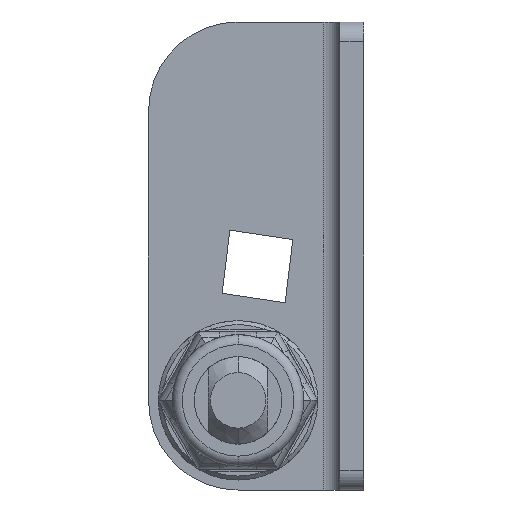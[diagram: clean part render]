
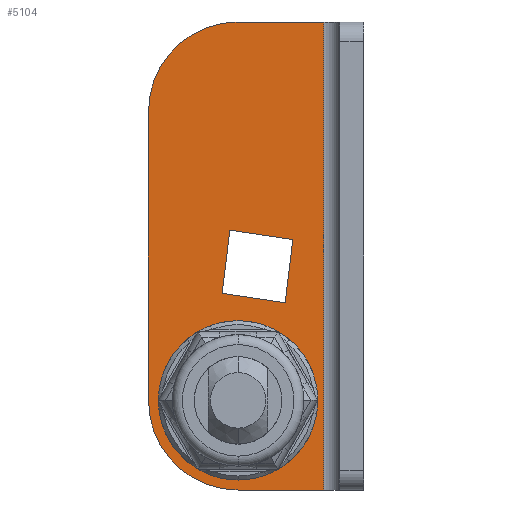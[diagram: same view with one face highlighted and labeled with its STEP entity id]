
A CAD part, left-side view. The second image highlights one B-rep face of the part: STEP entity #5104.
In plain terms, the highlighted planar face has unit normal (-1, 0, 0).
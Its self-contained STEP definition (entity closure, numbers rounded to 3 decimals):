
#24 = EDGE_CURVE ( 'NONE', #5192, #197, #4614, .T. ) ;
#69 = CARTESIAN_POINT ( 'NONE',  ( -1.2, 6.3, 23.5 ) ) ;
#80 = VERTEX_POINT ( 'NONE', #2283 ) ;
#172 = LINE ( 'NONE', #1657, #1533 ) ;
#197 = VERTEX_POINT ( 'NONE', #69 ) ;
#343 = EDGE_CURVE ( 'NONE', #981, #661, #2794, .T. ) ;
#366 = DIRECTION ( 'NONE',  ( 0., 1., 0. ) ) ;
#445 = CARTESIAN_POINT ( 'NONE',  ( -1.2, 6.3, 8.5 ) ) ;
#521 = CARTESIAN_POINT ( 'NONE',  ( -1.2, 6.3, 19. ) ) ;
#600 = LINE ( 'NONE', #5724, #2682 ) ;
#607 = VECTOR ( 'NONE', #977, 1000. ) ;
#648 = DIRECTION ( 'NONE',  ( -1., 0., 0. ) ) ;
#651 = DIRECTION ( 'NONE',  ( -1., 0., 0. ) ) ;
#661 = VERTEX_POINT ( 'NONE', #5493 ) ;
#671 = CIRCLE ( 'NONE', #1459, 4. ) ;
#672 = ORIENTED_EDGE ( 'NONE', *, *, #4709, .F. ) ;
#679 = DIRECTION ( 'NONE',  ( 0., 0., -1. ) ) ;
#698 = DIRECTION ( 'NONE',  ( 0., 1., 0. ) ) ;
#767 = ORIENTED_EDGE ( 'NONE', *, *, #24, .T. ) ;
#782 = LINE ( 'NONE', #1170, #5254 ) ;
#798 = CARTESIAN_POINT ( 'NONE',  ( -1.2, 0., 23.5 ) ) ;
#834 = EDGE_CURVE ( 'NONE', #4586, #5502, #3678, .T. ) ;
#968 = VERTEX_POINT ( 'NONE', #2514 ) ;
#977 = DIRECTION ( 'NONE',  ( 0., 0., -1. ) ) ;
#981 = VERTEX_POINT ( 'NONE', #3478 ) ;
#1000 = DIRECTION ( 'NONE',  ( -1., 0., 0. ) ) ;
#1014 = ORIENTED_EDGE ( 'NONE', *, *, #343, .T. ) ;
#1062 = CARTESIAN_POINT ( 'NONE',  ( -1.2, 6.715, 13.051 ) ) ;
#1112 = EDGE_CURVE ( 'NONE', #661, #968, #782, .T. ) ;
#1117 = CARTESIAN_POINT ( 'NONE',  ( -1.2, 2., 23.5 ) ) ;
#1170 = CARTESIAN_POINT ( 'NONE',  ( -1.2, 7.1, 9.874 ) ) ;
#1226 = CARTESIAN_POINT ( 'NONE',  ( -1.2, 6.3, 4.5 ) ) ;
#1330 = VECTOR ( 'NONE', #679, 1000. ) ;
#1369 = EDGE_LOOP ( 'NONE', ( #1759, #1014, #3814, #5221 ) ) ;
#1459 = AXIS2_PLACEMENT_3D ( 'NONE', #3920, #5226, #2492 ) ;
#1533 = VECTOR ( 'NONE', #698, 1000. ) ;
#1552 = LINE ( 'NONE', #1676, #2841 ) ;
#1587 = CARTESIAN_POINT ( 'NONE',  ( -1.2, 0., 23.5 ) ) ;
#1657 = CARTESIAN_POINT ( 'NONE',  ( -1.2, 0., 0. ) ) ;
#1676 = CARTESIAN_POINT ( 'NONE',  ( -1.2, 7.1, 9.874 ) ) ;
#1759 = ORIENTED_EDGE ( 'NONE', *, *, #5162, .T. ) ;
#1848 = EDGE_CURVE ( 'NONE', #968, #5922, #1552, .T. ) ;
#1876 = CARTESIAN_POINT ( 'NONE',  ( -1.2, 10.8, 23.5 ) ) ;
#1898 = FACE_BOUND ( 'NONE', #1369, .T. ) ;
#2068 = EDGE_LOOP ( 'NONE', ( #4543, #4870 ) ) ;
#2079 = EDGE_LOOP ( 'NONE', ( #767, #5481, #5234, #4976, #672, #3272 ) ) ;
#2143 = VERTEX_POINT ( 'NONE', #5222 ) ;
#2212 = VECTOR ( 'NONE', #366, 1000. ) ;
#2270 = LINE ( 'NONE', #1117, #1330 ) ;
#2283 = CARTESIAN_POINT ( 'NONE',  ( -1.2, 10.8, 4.5 ) ) ;
#2330 = FACE_OUTER_BOUND ( 'NONE', #2079, .T. ) ;
#2391 = DIRECTION ( 'NONE',  ( 0., 0., 1. ) ) ;
#2462 = FACE_BOUND ( 'NONE', #2068, .T. ) ;
#2492 = DIRECTION ( 'NONE',  ( 0., 0., 1. ) ) ;
#2497 = CARTESIAN_POINT ( 'NONE',  ( -1.2, 2., 0. ) ) ;
#2514 = CARTESIAN_POINT ( 'NONE',  ( -1.2, 7.1, 9.874 ) ) ;
#2516 = DIRECTION ( 'NONE',  ( 0., 0.989, 0.148 ) ) ;
#2529 = EDGE_CURVE ( 'NONE', #5192, #4366, #2270, .T. ) ;
#2656 = VERTEX_POINT ( 'NONE', #3068 ) ;
#2682 = VECTOR ( 'NONE', #3464, 1000. ) ;
#2747 = CARTESIAN_POINT ( 'NONE',  ( -1.2, 6.3, 0.5 ) ) ;
#2794 = LINE ( 'NONE', #3363, #5770 ) ;
#2841 = VECTOR ( 'NONE', #4421, 1000. ) ;
#2868 = DIRECTION ( 'NONE',  ( 0., 0.12, -0.993 ) ) ;
#3068 = CARTESIAN_POINT ( 'NONE',  ( -1.2, 6.3, 0. ) ) ;
#3272 = ORIENTED_EDGE ( 'NONE', *, *, #2529, .F. ) ;
#3363 = CARTESIAN_POINT ( 'NONE',  ( -1.2, 3.935, 9.4 ) ) ;
#3423 = CARTESIAN_POINT ( 'NONE',  ( -1.2, 2., 23.5 ) ) ;
#3464 = DIRECTION ( 'NONE',  ( 0., -0.989, -0.148 ) ) ;
#3465 = AXIS2_PLACEMENT_3D ( 'NONE', #1226, #3495, #4908 ) ;
#3478 = CARTESIAN_POINT ( 'NONE',  ( -1.2, 3.55, 12.577 ) ) ;
#3495 = DIRECTION ( 'NONE',  ( -1., 0., 0. ) ) ;
#3678 = CIRCLE ( 'NONE', #4615, 4. ) ;
#3814 = ORIENTED_EDGE ( 'NONE', *, *, #1112, .T. ) ;
#3877 = PLANE ( 'NONE',  #5712 ) ;
#3902 = DIRECTION ( 'NONE',  ( 0., 0., 1. ) ) ;
#3920 = CARTESIAN_POINT ( 'NONE',  ( -1.2, 6.3, 4.5 ) ) ;
#4097 = EDGE_CURVE ( 'NONE', #2143, #80, #4377, .T. ) ;
#4366 = VERTEX_POINT ( 'NONE', #2497 ) ;
#4377 = LINE ( 'NONE', #1876, #607 ) ;
#4421 = DIRECTION ( 'NONE',  ( 0., -0.12, 0.993 ) ) ;
#4543 = ORIENTED_EDGE ( 'NONE', *, *, #5148, .F. ) ;
#4579 = CIRCLE ( 'NONE', #5921, 4.5 ) ;
#4586 = VERTEX_POINT ( 'NONE', #445 ) ;
#4614 = LINE ( 'NONE', #798, #2212 ) ;
#4615 = AXIS2_PLACEMENT_3D ( 'NONE', #5198, #1000, #2391 ) ;
#4677 = EDGE_CURVE ( 'NONE', #80, #2656, #5009, .T. ) ;
#4709 = EDGE_CURVE ( 'NONE', #4366, #2656, #172, .T. ) ;
#4870 = ORIENTED_EDGE ( 'NONE', *, *, #834, .F. ) ;
#4908 = DIRECTION ( 'NONE',  ( 0., 0., 1. ) ) ;
#4976 = ORIENTED_EDGE ( 'NONE', *, *, #4677, .T. ) ;
#5009 = CIRCLE ( 'NONE', #3465, 4.5 ) ;
#5104 = ADVANCED_FACE ( 'NONE', ( #1898, #2462, #2330 ), #3877, .T. ) ;
#5148 = EDGE_CURVE ( 'NONE', #5502, #4586, #671, .T. ) ;
#5162 = EDGE_CURVE ( 'NONE', #5922, #981, #600, .T. ) ;
#5192 = VERTEX_POINT ( 'NONE', #3423 ) ;
#5198 = CARTESIAN_POINT ( 'NONE',  ( -1.2, 6.3, 4.5 ) ) ;
#5221 = ORIENTED_EDGE ( 'NONE', *, *, #1848, .T. ) ;
#5222 = CARTESIAN_POINT ( 'NONE',  ( -1.2, 10.8, 19. ) ) ;
#5226 = DIRECTION ( 'NONE',  ( -1., 0., 0. ) ) ;
#5234 = ORIENTED_EDGE ( 'NONE', *, *, #4097, .T. ) ;
#5254 = VECTOR ( 'NONE', #2516, 1000. ) ;
#5481 = ORIENTED_EDGE ( 'NONE', *, *, #5490, .T. ) ;
#5490 = EDGE_CURVE ( 'NONE', #197, #2143, #4579, .T. ) ;
#5493 = CARTESIAN_POINT ( 'NONE',  ( -1.2, 3.935, 9.4 ) ) ;
#5502 = VERTEX_POINT ( 'NONE', #2747 ) ;
#5711 = DIRECTION ( 'NONE',  ( 0., 0., 1. ) ) ;
#5712 = AXIS2_PLACEMENT_3D ( 'NONE', #1587, #648, #3902 ) ;
#5724 = CARTESIAN_POINT ( 'NONE',  ( -1.2, 6.715, 13.051 ) ) ;
#5770 = VECTOR ( 'NONE', #2868, 1000. ) ;
#5921 = AXIS2_PLACEMENT_3D ( 'NONE', #521, #651, #5711 ) ;
#5922 = VERTEX_POINT ( 'NONE', #1062 ) ;
